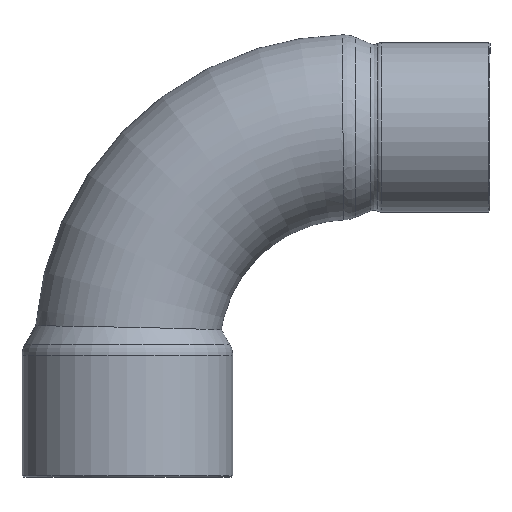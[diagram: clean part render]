
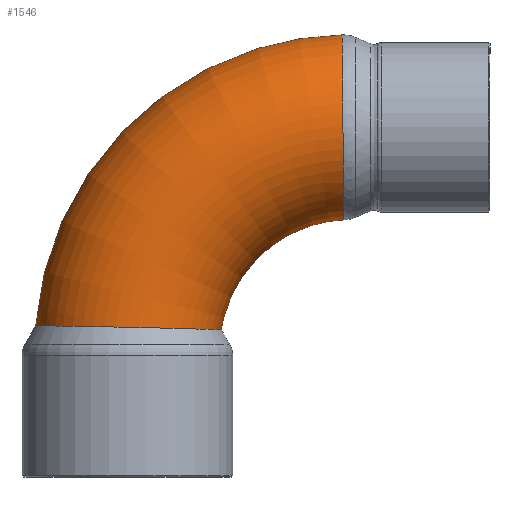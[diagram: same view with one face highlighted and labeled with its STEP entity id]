
A CAD part, left-side view. The second image highlights one B-rep face of the part: STEP entity #1546.
In plain terms, the highlighted toroidal (fillet/blend) face has major radius 34.3 mm and minor radius 14.285 mm.
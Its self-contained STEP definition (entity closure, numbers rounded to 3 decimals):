
#780=CARTESIAN_POINT('',(14.285,1.017,34.285));
#781=VERTEX_POINT('',#780);
#852=CARTESIAN_POINT('',(14.285,1.017,34.285));
#853=CARTESIAN_POINT('',(14.285,1.024,35.081));
#854=CARTESIAN_POINT('',(14.195,1.032,36.149));
#855=CARTESIAN_POINT('',(13.834,1.044,37.973));
#856=CARTESIAN_POINT('',(13.429,1.053,39.249));
#857=CARTESIAN_POINT('',(12.781,1.062,40.706));
#858=CARTESIAN_POINT('',(12.137,1.069,41.877));
#859=CARTESIAN_POINT('',(11.206,1.077,43.194));
#860=CARTESIAN_POINT('',(10.136,1.083,44.395));
#861=CARTESIAN_POINT('',(8.817,1.09,45.579));
#862=CARTESIAN_POINT('',(7.188,1.095,46.695));
#863=CARTESIAN_POINT('',(5.575,1.099,47.473));
#864=CARTESIAN_POINT('',(4.239,1.101,47.943));
#865=CARTESIAN_POINT('',(2.86,1.103,48.315));
#866=CARTESIAN_POINT('',(1.441,1.104,48.531));
#867=CARTESIAN_POINT('',(0.014,1.104,48.586));
#868=CARTESIAN_POINT('',(-1.401,1.104,48.534));
#869=CARTESIAN_POINT('',(-3.174,1.103,48.271));
#870=CARTESIAN_POINT('',(-4.889,1.1,47.743));
#871=CARTESIAN_POINT('',(-6.189,1.098,47.177));
#872=CARTESIAN_POINT('',(-7.449,1.094,46.513));
#873=CARTESIAN_POINT('',(-8.636,1.09,45.706));
#874=CARTESIAN_POINT('',(-9.72,1.085,44.773));
#875=CARTESIAN_POINT('',(-10.723,1.08,43.771));
#876=CARTESIAN_POINT('',(-11.839,1.072,42.377));
#877=CARTESIAN_POINT('',(-12.917,1.061,40.509));
#878=CARTESIAN_POINT('',(-13.696,1.048,38.528));
#879=CARTESIAN_POINT('',(-14.178,1.034,36.43));
#880=CARTESIAN_POINT('',(-14.311,1.02,34.645));
#881=CARTESIAN_POINT('',(-14.259,1.009,33.23));
#882=CARTESIAN_POINT('',(-14.101,0.997,31.811));
#883=CARTESIAN_POINT('',(-13.783,0.984,30.412));
#884=CARTESIAN_POINT('',(-13.312,0.971,29.065));
#885=CARTESIAN_POINT('',(-12.747,0.958,27.767));
#886=CARTESIAN_POINT('',(-11.853,0.941,26.214));
#887=CARTESIAN_POINT('',(-10.512,0.921,24.532));
#888=CARTESIAN_POINT('',(-9.213,0.906,23.325));
#889=CARTESIAN_POINT('',(-8.063,0.894,22.474));
#890=CARTESIAN_POINT('',(-6.851,0.883,21.712));
#891=CARTESIAN_POINT('',(-5.725,0.875,21.169));
#892=CARTESIAN_POINT('',(-4.397,0.868,20.675));
#893=CARTESIAN_POINT('',(-3.195,0.862,20.327));
#894=CARTESIAN_POINT('',(-1.604,0.858,20.057));
#895=CARTESIAN_POINT('',(-0.004,0.857,19.967));
#896=CARTESIAN_POINT('',(1.593,0.858,20.056));
#897=CARTESIAN_POINT('',(3.184,0.862,20.325));
#898=CARTESIAN_POINT('',(4.732,0.869,20.772));
#899=CARTESIAN_POINT('',(6.205,0.878,21.382));
#900=CARTESIAN_POINT('',(7.613,0.89,22.159));
#901=CARTESIAN_POINT('',(9.368,0.907,23.405));
#902=CARTESIAN_POINT('',(10.877,0.926,24.915));
#903=CARTESIAN_POINT('',(12.122,0.946,26.668));
#904=CARTESIAN_POINT('',(12.9,0.961,28.078));
#905=CARTESIAN_POINT('',(13.51,0.976,29.551));
#906=CARTESIAN_POINT('',(14.105,0.995,31.612));
#907=CARTESIAN_POINT('',(14.285,1.009,33.223));
#908=CARTESIAN_POINT('',(14.285,1.017,34.285));
#909=B_SPLINE_CURVE_WITH_KNOTS('',3,(#852,#853,#854,#855,#856,#857,#858,#859,#860,#861,#862,#863,#864,#865,#866,#867,#868,#869,#870,#871,#872,#873,#874,#875,#876,#877,#878,#879,#880,#881,#882,#883,#884,#885,#886,#887,#888,#889,#890,#891,#892,#893,#894,#895,#896,#897,#898,#899,#900,#901,#902,#903,#904,#905,#906,#907,#908),.UNSPECIFIED.,.T.,.U.,(4,1,1,1,1,1,1,1,1,1,1,1,1,1,1,1,1,1,1,1,1,1,1,1,1,1,1,1,1,1,1,1,1,1,1,1,1,1,1,1,1,1,1,1,1,1,1,1,1,1,1,1,1,1,4),(-3.142,-2.973,-2.917,-2.749,-2.693,-2.581,-2.468,-2.356,-2.244,-2.094,-1.945,-1.87,-1.795,-1.646,-1.571,-1.496,-1.346,-1.197,-1.122,-1.047,-0.898,-0.823,-0.748,-0.598,-0.449,-0.299,-0.15,0.,0.075,0.15,0.299,0.374,0.449,0.598,0.748,0.898,0.972,1.047,1.197,1.234,1.346,1.459,1.571,1.683,1.795,1.907,2.02,2.132,2.244,2.468,2.581,2.693,2.805,2.917,3.142),.UNSPECIFIED.);
#910=EDGE_CURVE('',#781,#781,#909,.T.);
#1405=CARTESIAN_POINT('',(0.,48.446,3.675));
#1406=VERTEX_POINT('',#1405);
#1407=CARTESIAN_POINT('',(0.,48.446,3.675));
#1408=CARTESIAN_POINT('',(-1.42,48.446,3.675));
#1409=CARTESIAN_POINT('',(-2.831,48.234,3.672));
#1410=CARTESIAN_POINT('',(-5.507,47.412,3.661));
#1411=CARTESIAN_POINT('',(-6.759,46.818,3.652));
#1412=CARTESIAN_POINT('',(-9.481,45.005,3.626));
#1413=CARTESIAN_POINT('',(-10.831,43.655,3.605));
#1414=CARTESIAN_POINT('',(-12.929,40.506,3.554));
#1415=CARTESIAN_POINT('',(-13.656,38.738,3.523));
#1416=CARTESIAN_POINT('',(-14.382,35.018,3.452));
#1417=CARTESIAN_POINT('',(-14.373,33.103,3.412));
#1418=CARTESIAN_POINT('',(-13.611,29.38,3.326));
#1419=CARTESIAN_POINT('',(-12.863,27.61,3.281));
#1420=CARTESIAN_POINT('',(-10.795,24.573,3.195));
#1421=CARTESIAN_POINT('',(-9.536,23.306,3.156));
#1422=CARTESIAN_POINT('',(-6.514,21.223,3.087));
#1423=CARTESIAN_POINT('',(-4.751,20.468,3.059));
#1424=CARTESIAN_POINT('',(-2.,19.896,3.038));
#1425=CARTESIAN_POINT('',(-1.094,19.797,3.034));
#1426=CARTESIAN_POINT('',(0.691,19.774,3.033));
#1427=CARTESIAN_POINT('',(1.565,19.843,3.036));
#1428=CARTESIAN_POINT('',(3.945,20.256,3.051));
#1429=CARTESIAN_POINT('',(5.409,20.764,3.07));
#1430=CARTESIAN_POINT('',(8.427,22.395,3.126));
#1431=CARTESIAN_POINT('',(9.896,23.616,3.166));
#1432=CARTESIAN_POINT('',(12.224,26.493,3.251));
#1433=CARTESIAN_POINT('',(13.087,28.104,3.294));
#1434=CARTESIAN_POINT('',(14.155,31.516,3.377));
#1435=CARTESIAN_POINT('',(14.368,33.282,3.416));
#1436=CARTESIAN_POINT('',(14.144,36.801,3.487));
#1437=CARTESIAN_POINT('',(13.709,38.524,3.519));
#1438=CARTESIAN_POINT('',(12.228,41.744,3.575));
#1439=CARTESIAN_POINT('',(11.187,43.21,3.598));
#1440=CARTESIAN_POINT('',(8.599,45.706,3.636));
#1441=CARTESIAN_POINT('',(7.066,46.704,3.651));
#1442=CARTESIAN_POINT('',(3.677,48.087,3.67));
#1443=CARTESIAN_POINT('',(1.847,48.446,3.675));
#1444=CARTESIAN_POINT('',(0.0,48.446,3.675));
#1445=B_SPLINE_CURVE_WITH_KNOTS('',3,(#1407,#1408,#1409,#1410,#1411,#1412,#1413,#1414,#1415,#1416,#1417,#1418,#1419,#1420,#1421,#1422,#1423,#1424,#1425,#1426,#1427,#1428,#1429,#1430,#1431,#1432,#1433,#1434,#1435,#1436,#1437,#1438,#1439,#1440,#1441,#1442,#1443,#1444),.UNSPECIFIED.,.T.,.U.,(4,2,2,2,2,2,2,2,2,2,2,2,2,2,2,2,2,2,4),(-9.015,-8.589,-8.176,-7.608,-7.04,-6.471,-5.9,-5.369,-4.799,-4.526,-4.263,-3.801,-3.234,-2.691,-2.161,-1.633,-1.098,-0.554,0.0),.UNSPECIFIED.);
#1446=EDGE_CURVE('',#1406,#1406,#1445,.T.);
#1535=CARTESIAN_POINT('',(0.0,0.0,0.0));
#1536=DIRECTION('',(1.0,0.0,0.0));
#1537=DIRECTION('',(0.0,0.0,-1.0));
#1538=AXIS2_PLACEMENT_3D('',#1535,#1536,#1537);
#1539=TOROIDAL_SURFACE('',#1538,34.3,14.285);
#1540=ORIENTED_EDGE('',*,*,#910,.F.);
#1541=EDGE_LOOP('',(#1540));
#1542=FACE_OUTER_BOUND('',#1541,.T.);
#1543=ORIENTED_EDGE('',*,*,#1446,.T.);
#1544=EDGE_LOOP('',(#1543));
#1545=FACE_BOUND('',#1544,.T.);
#1546=ADVANCED_FACE('',(#1542,#1545),#1539,.T.);
